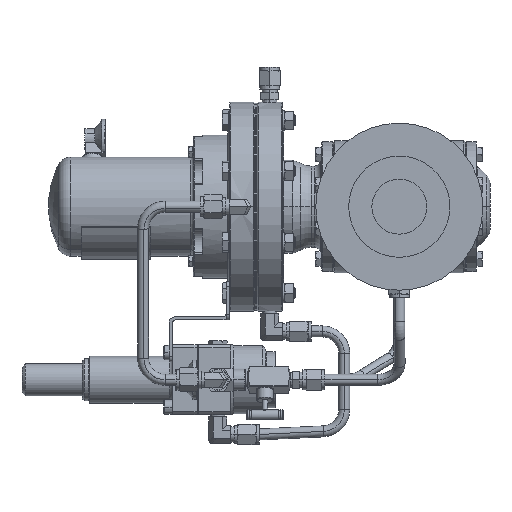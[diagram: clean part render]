
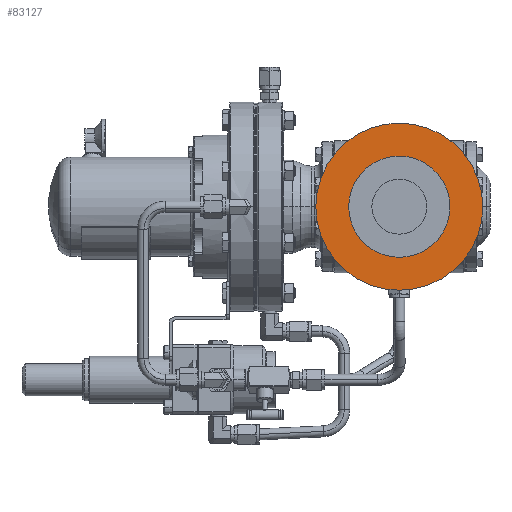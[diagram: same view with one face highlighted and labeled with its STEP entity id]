
A CAD part, left-side view. The second image highlights one B-rep face of the part: STEP entity #83127.
In plain terms, the highlighted planar face has unit normal (-1, 0, 0).
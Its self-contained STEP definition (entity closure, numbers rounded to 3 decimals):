
#6113=CARTESIAN_POINT('',(-125.4,0.,0.));
#6114=DIRECTION('',(1.,0.,0.));
#6115=DIRECTION('',(0.,-1.,0.));
#6116=AXIS2_PLACEMENT_3D('',#6113,#6114,#6115);
#6118=CARTESIAN_POINT('',(-125.4,0.,0.));
#6119=DIRECTION('',(1.,0.,0.));
#6120=DIRECTION('',(0.,1.,0.));
#6121=AXIS2_PLACEMENT_3D('',#6118,#6119,#6120);
#6123=CARTESIAN_POINT('',(-125.4,0.,0.));
#6124=DIRECTION('',(-1.,0.,0.));
#6125=DIRECTION('',(0.,-1.,0.));
#6126=AXIS2_PLACEMENT_3D('',#6123,#6124,#6125);
#6128=CARTESIAN_POINT('',(-125.4,0.,0.));
#6129=DIRECTION('',(-1.,0.,0.));
#6130=DIRECTION('',(0.,1.,0.));
#6131=AXIS2_PLACEMENT_3D('',#6128,#6129,#6130);
#67674=CARTESIAN_POINT('',(-125.4,-76.,0.));
#67675=VERTEX_POINT('',#67674);
#67676=CARTESIAN_POINT('',(-125.4,76.,0.));
#67677=VERTEX_POINT('',#67676);
#67678=CARTESIAN_POINT('',(-125.4,-46.05,0.));
#67679=CARTESIAN_POINT('',(-125.4,46.05,0.));
#67680=VERTEX_POINT('',#67678);
#67681=VERTEX_POINT('',#67679);
#83112=CARTESIAN_POINT('',(-125.4,0.,0.));
#83113=DIRECTION('',(-1.,0.,0.));
#83114=DIRECTION('',(0.,1.,0.));
#83115=AXIS2_PLACEMENT_3D('',#83112,#83113,#83114);
#83116=PLANE('',#83115);
#83117=ORIENTED_EDGE('',*,*,#83094,.T.);
#83118=ORIENTED_EDGE('',*,*,#83105,.T.);
#83119=EDGE_LOOP('',(#83117,#83118));
#83120=FACE_OUTER_BOUND('',#83119,.F.);
#83122=ORIENTED_EDGE('',*,*,#83121,.T.);
#83124=ORIENTED_EDGE('',*,*,#83123,.T.);
#83125=EDGE_LOOP('',(#83122,#83124));
#83126=FACE_BOUND('',#83125,.F.);
#83127=ADVANCED_FACE('',(#83120,#83126),#83116,.T.);
#6117=CIRCLE('',#6116,76.);
#6122=CIRCLE('',#6121,76.);
#6127=CIRCLE('',#6126,46.05);
#6132=CIRCLE('',#6131,46.05);
#83094=EDGE_CURVE('',#67675,#67677,#6117,.T.);
#83105=EDGE_CURVE('',#67677,#67675,#6122,.T.);
#83121=EDGE_CURVE('',#67680,#67681,#6127,.T.);
#83123=EDGE_CURVE('',#67681,#67680,#6132,.T.);
